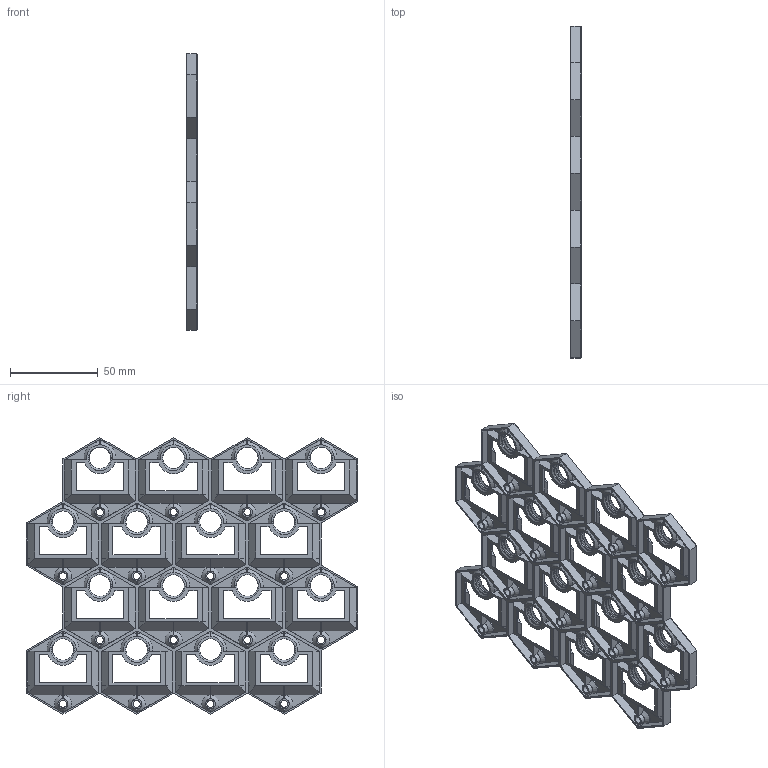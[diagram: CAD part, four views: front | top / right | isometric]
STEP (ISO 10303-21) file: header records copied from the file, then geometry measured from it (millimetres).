
FILE_DESCRIPTION(/* description */ ('','CAx-IF Rec.Pracs.---Representation and Presentation of Product Manufacturing Information (PMI)---4.0---2014-10-13'),/* implementation_level */ '2;1');
FILE_NAME(/* name */ 'GOEWS Tile 4x4 Lite.step',/* time_stamp */ '2024-11-29T08:16:18-05:00',/* author */ (''),/* organization */ (''),/* preprocessor_version */ 'ST-DEVELOPER v20',/* originating_system */ 'Autodesk Translation Framework v13.20.0.188',/* authorisation */ '');
FILE_SCHEMA (('AP242_MANAGED_MODEL_BASED_3D_ENGINEERING_MIM_LF { 1 0 10303 442 1 1 4 }'));
Products named in the file (1): GOEWS Tile Maker Lite
Bounding box: 6 x 189 x 157.62 mm (x, y, z)
Volume: 44601.8 mm3; surface area: 73033.7 mm2
Topology: 1 solids, 1 shells, 1855 faces, 5159 edges, 3338 vertices
Faces by surface type: plane 1327, cylinder 304, bspline 128, cone 96
Full cylindrical faces by diameter (mm): 4 x16, 8 x16, 12.322 x32, 14.55 x32
Entity records: 78227 total; most frequent: CARTESIAN_POINT 32958, ORIENTED_EDGE 10318, DIRECTION 8055, EDGE_CURVE 5159, VERTEX_POINT 3338, LINE 3319, VECTOR 3319, AXIS2_PLACEMENT_3D 2368
